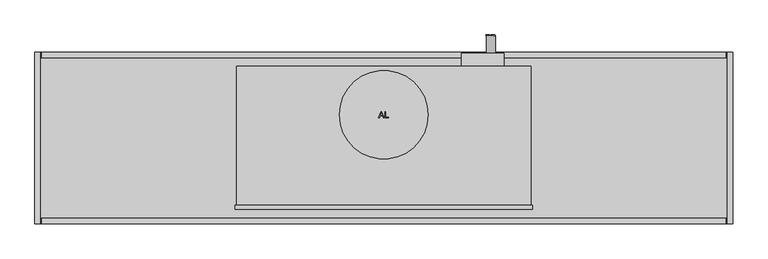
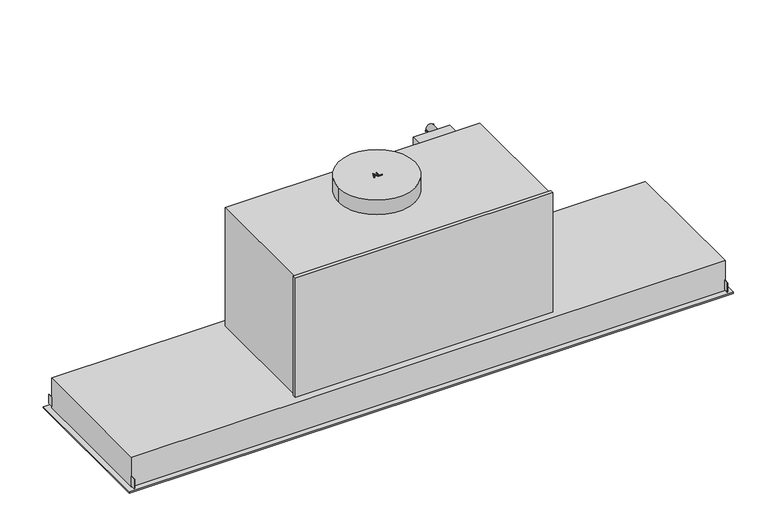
"""IFC4 building model written with IfcOpenShell, lengths in millimetres: proxy geometry, 10876800_USA_DA2628_EDST : 28262855_USA_10876800_DA2628_EDST."""

from ifc_helpers import new_model, si_unit, point, frame, frame_2d, origin, place, context, project, spatial, polyline, circle_curve, trimmed, segment, composite_curve, outline, extrude, faceted_brep, source, transform, mapped, element, save
from ifc_brep_helpers import plane_surface, revolved_surface, advanced_brep


def specialty_equipment_85a93b48(model_context):
    return source(origin(), model_context, "Body", "SolidModel", [
        extrude(outline(polyline([(-251.5, -266.0), (-251.5, -259.0), (251.5, -259.0), (251.5, -266.0), (-251.5, -266.0)])), frame((0.0, 0.0, 62.0), z_axis=(0.0, 0.0, 1.0), x_axis=(1.0, 0.0, 0.0)), (0.0, 0.0, 1.0), 247.0),
        extrude(outline(polyline([(-580.0, -10.0), (-580.0, 0.0), (-579.0, 0.0), (-579.0, -10.0), (-580.0, -10.0)])), frame((0.0, 0.0, 3.0), z_axis=(0.0, 0.0, 1.0), x_axis=(1.0, 0.0, 0.0)), (0.0, 0.0, 1.0), 19.0),
        extrude(outline(polyline([(-580.0, -290.0), (-580.0, -280.0), (-579.0, -280.0), (-579.0, -290.0), (-580.0, -290.0)])), frame((0.0, 0.0, 3.0), z_axis=(0.0, 0.0, 1.0), x_axis=(1.0, 0.0, 0.0)), (0.0, 0.0, 1.0), 19.0),
        extrude(outline(polyline([(580.0, -280.0), (580.0, -290.0), (579.0, -290.0), (579.0, -280.0), (580.0, -280.0)])), frame((0.0, 0.0, 3.0), z_axis=(0.0, 0.0, 1.0), x_axis=(1.0, 0.0, 0.0)), (0.0, 0.0, 1.0), 19.0),
        extrude(outline(polyline([(580.0, 0.0), (580.0, -10.0), (579.0, -10.0), (579.0, 0.0), (580.0, 0.0)])), frame((0.0, 0.0, 3.0), z_axis=(0.0, 0.0, 1.0), x_axis=(1.0, 0.0, 0.0)), (0.0, 0.0, 1.0), 19.0),
        extrude(outline(polyline([(295.0487014, 181.1488124), (293.7933175, 181.1488124), (293.7933175, 187.1103397), (290.8179635, 187.1103397), (290.8179635, 181.4736401), (289.549202, 181.4736401), (289.549202, 187.1103397), (286.2562302, 187.1103397), (286.2562302, 181.0), (285.0008068, 181.0), (285.0008068, 188.3751415), (295.0487014, 188.3751415), (295.0487014, 181.1488124)])), frame((0.0, 28.0, 0.0), z_axis=(0.0, 1.0, 0.0), x_axis=(0.0, 0.0, 1.0)), (0.0, 0.0, 1.0), 1.0),
        extrude(outline(polyline([(285.0010623, 179.1174475), (295.0447152, 179.1174475), (295.0447152, 177.8578836), (286.2586555, 177.8578836), (286.2586555, 172.835249), (285.0010623, 172.835249), (285.0010623, 179.1174475)])), frame((0.0, 28.0, 0.0), z_axis=(0.0, 1.0, 0.0), x_axis=(0.0, 0.0, 1.0)), (0.0, 0.0, 1.0), 1.0),
        extrude(outline(composite_curve([segment(trimmed(circle_curve(frame_2d((290.0, 181.0)), 7.5), [point((290.0, 188.5))], [point((290.0, 173.5))], False, "CARTESIAN"), True, "CONTINUOUS"), segment(trimmed(circle_curve(frame_2d((290.0, 181.0)), 7.5), [point((290.0, 173.5))], [point((290.0, 188.5))], False, "CARTESIAN"), True, "CONTINUOUS")], self_intersect=False)), frame((0.0, -2.0, 0.0), z_axis=(0.0, 1.0, 0.0), x_axis=(0.0, 0.0, 1.0)), (0.0, 0.0, 1.0), 30.0),
        extrude(outline(polyline([(-4.5437921, -100.9495981), (-3.4668148, -100.9495981), (0.5440871, -110.9953171), (-0.7800582, -110.9953171), (-1.9426964, -107.8611222), (-6.0755488, -107.8611222), (-7.2182499, -111.0006677), (-8.5685918, -111.0006677), (-4.5437921, -100.9495981)]), holes=[polyline([(-5.5965599, -106.5853483), (-2.3854954, -106.5853483), (-4.0062819, -102.2160952), (-5.5965599, -106.5853483)])]), frame((0.0, 0.0, 337.0), z_axis=(0.0, 0.0, 1.0), x_axis=(1.0, 0.0, 0.0)), (0.0, 0.0, 1.0), 1.0),
        extrude(outline(polyline([(1.8800307, -110.9978853), (1.8800307, -100.9363264), (3.1662053, -100.9363264), (3.1662053, -109.743845), (8.1662053, -109.743845), (8.1662053, -110.9978853), (1.8800307, -110.9978853)])), frame((0.0, 0.0, 337.0), z_axis=(0.0, 0.0, 1.0), x_axis=(1.0, 0.0, 0.0)), (0.0, 0.0, 1.0), 1.0),
        extrude(outline(composite_curve([segment(trimmed(circle_curve(frame_2d((0.0, -106.0)), 75.0), [point((75.0, -106.0))], [point((-75.0, -106.0))], False, "CARTESIAN"), True, "CONTINUOUS"), segment(trimmed(circle_curve(frame_2d((0.0, -106.0)), 75.0), [point((-75.0, -106.0))], [point((75.0, -106.0))], False, "CARTESIAN"), True, "CONTINUOUS")], self_intersect=False)), frame((0.0, 0.0, 307.0), z_axis=(0.0, 0.0, 1.0), x_axis=(1.0, 0.0, 0.0)), (0.0, 0.0, 1.0), 30.0),
        extrude(outline(polyline([(249.0, -24.0), (249.0, -259.0), (-249.0, -259.0), (-249.0, -24.0), (249.0, -24.0)])), frame((0.0, 0.0, 62.0), z_axis=(0.0, 0.0, 1.0), x_axis=(1.0, 0.0, 0.0)), (0.0, 0.0, 1.0), 245.0),
        extrude(outline(polyline([(-65.0, -45.0), (-65.0, -245.0), (-475.0, -245.0), (-475.0, -45.0), (-65.0, -45.0)])), frame((0.0, 0.0, -3.0), z_axis=(0.0, 0.0, 1.0), x_axis=(1.0, 0.0, 0.0)), (0.0, 0.0, 1.0), 6.0),
        extrude(outline(polyline([(475.0, -45.0), (475.0, -245.0), (65.0, -245.0), (65.0, -45.0), (475.0, -45.0)])), frame((0.0, 0.0, -3.0), z_axis=(0.0, 0.0, 1.0), x_axis=(1.0, 0.0, 0.0)), (0.0, 0.0, 1.0), 6.0),
        advanced_brep(
        [(50.0, -30.0, 43.0), (-50.0, -30.0, 43.0), (-50.0, -260.0, 43.0), (50.0, -260.0, 43.0), (50.0, -30.0, -3.0), (50.0, -260.0, -3.0), (-50.0, -260.0, -3.0), (-50.0, -30.0, -3.0), (29.0, -145.0, -3.0), (-29.0, -145.0, -3.0), (-29.0, -145.0, 0.0), (29.0, -145.0, 0.0)],
        [
            (0, 1),
            (1, 2),
            (2, 3),
            (3, 0),
            (4, 5),
            (5, 6),
            (6, 7),
            (7, 4),
            (8, 9, circle_curve(frame((0.0, -145.0, -3.0), z_axis=(0.0, 0.0, 1.0), x_axis=(-1.0, 0.0, 0.0)), 29.0)),
            (9, 8, circle_curve(frame((0.0, -145.0, -3.0), z_axis=(0.0, 0.0, 1.0), x_axis=(-1.0, 0.0, 0.0)), 29.0)),
            (0, 4),
            (7, 1),
            (3, 5),
            (10, 11, circle_curve(frame((0.0, -145.0, 0.0), z_axis=(0.0, 0.0, 1.0), x_axis=(-1.0, 0.0, 0.0)), 29.0)),
            (11, 8),
            (9, 10),
            (6, 2),
            (10, 11, circle_curve(frame((0.0, -145.0, 0.0), z_axis=(0.0, 0.0, -1.0), x_axis=(-1.0, 0.0, 0.0)), 29.0)),
        ],
        [
            plane_surface(frame((-50.0, -30.0, 43.0), z_axis=(0.0, 0.0, 1.0), x_axis=(-1.0, 0.0, 0.0))),
            plane_surface(frame((-50.0, -30.0, -3.0), z_axis=(0.0, 0.0, -1.0), x_axis=(1.0, 0.0, 0.0))),
            plane_surface(frame((50.0, -30.0, 43.0), z_axis=(0.0, 1.0, 0.0), x_axis=(0.0, 0.0, -1.0))),
            plane_surface(frame((50.0, -260.0, 43.0), z_axis=(1.0, 0.0, 0.0), x_axis=(0.0, 0.0, -1.0))),
            revolved_surface(polyline([(-29.0, -145.0, 0.0), (-29.0, -145.0, -3.0)]), (0.0, -145.0, -3.0), (0.0, 0.0, 1.0)),
            plane_surface(frame((-50.0, -30.0, 43.0), z_axis=(-1.0, 0.0, 0.0), x_axis=(0.0, 0.0, -1.0))),
            plane_surface(frame((-50.0, -260.0, 43.0), z_axis=(0.0, -1.0, 0.0), x_axis=(0.0, 0.0, -1.0))),
            plane_surface(frame((-29.0, -145.0, 0.0), z_axis=(0.0, 0.0, -1.0), x_axis=(0.0, -1.0, 0.0))),
        ],
        [
            (0, [[1, 2, 3, 4]]),
            (1, [[5, 6, 7, 8], [9, 10]]),
            (2, [[-1, 11, -8, 12]]),
            (3, [[-4, 13, -5, -11]]),
            (4, [[14, 15, -10, 16]]),
            (5, [[-2, -12, -7, 17]]),
            (6, [[-3, -17, -6, -13]]),
            (7, [[-14, 18]]),
            (4, [[-18, -16, -9, -15]]),
        ],
    ),
        extrude(outline(polyline([(590.0, 0.0), (590.0, -290.0), (-590.0, -290.0), (-590.0, 0.0), (590.0, 0.0)]), holes=[composite_curve([segment(trimmed(circle_curve(frame_2d((549.5, -145.0)), 29.0), [point((578.5, -145.0))], [point((520.5, -145.0))], True, "CARTESIAN"), True, "CONTINUOUS"), segment(trimmed(circle_curve(frame_2d((549.5, -145.0)), 29.0), [point((520.5, -145.0))], [point((578.5, -145.0))], True, "CARTESIAN"), True, "CONTINUOUS")], self_intersect=False), polyline([(490.0, -30.0), (-490.0, -30.0), (-490.0, -260.0), (490.0, -260.0), (490.0, -30.0)]), composite_curve([segment(trimmed(circle_curve(frame_2d((-549.5, -145.0)), 29.0), [point((-520.5, -145.0))], [point((-578.5, -145.0))], True, "CARTESIAN"), True, "CONTINUOUS"), segment(trimmed(circle_curve(frame_2d((-549.5, -145.0)), 29.0), [point((-578.5, -145.0))], [point((-520.5, -145.0))], True, "CARTESIAN"), True, "CONTINUOUS")], self_intersect=False)]), frame((0.0, 0.0, -3.0), z_axis=(0.0, 0.0, 1.0), x_axis=(1.0, 0.0, 0.0)), (0.0, 0.0, 1.0), 3.0),
        faceted_brep([(490.0, -260.0, 43.0), (490.0, -30.0, 43.0), (490.0, -30.0, 0.0), (490.0, -260.0, 0.0), (-580.0, -280.0, 62.0), (-580.0, -10.0, 62.0), (-580.0, -10.0, 0.0), (-580.0, -280.0, 0.0), (580.0, -280.0, 62.0), (580.0, -280.0, 0.0), (-490.0, -30.0, 43.0), (-490.0, -260.0, 43.0), (-490.0, -260.0, 0.0), (-490.0, -30.0, 0.0), (580.0, -10.0, 62.0), (580.0, -10.0, 0.0)], [[[0, 1, 2, 3]], [[4, 5, 6, 7]], [[8, 4, 7, 9]], [[10, 11, 12, 13]], [[11, 0, 3, 12]], [[14, 5, 4, 8]], [[15, 9, 7, 6], [2, 13, 12, 3]], [[5, 14, 15, 6]], [[14, 8, 9, 15]], [[1, 0, 11, 10]], [[1, 10, 13, 2]]]),
        extrude(outline(polyline([(131.0, -2.0), (203.0, -2.0), (203.0, -24.0), (131.0, -24.0), (131.0, -2.0)])), frame((0.0, 0.0, 280.0), z_axis=(0.0, 0.0, 1.0), x_axis=(1.0, 0.0, 0.0)), (0.0, 0.0, 1.0), 26.0),
        extrude(outline(polyline([(518.0, -67.0), (518.0, -92.5), (510.0, -92.5), (510.0, -67.0), (518.0, -67.0)])), frame((0.0, 0.0, -5.0), z_axis=(0.0, 0.0, 1.0), x_axis=(1.0, 0.0, 0.0)), (0.0, 0.0, 1.0), 2.0),
        extrude(outline(polyline([(510.0, -197.5), (518.0, -197.5), (518.0, -223.0), (510.0, -223.0), (510.0, -197.5)])), frame((0.0, 0.0, -5.0), z_axis=(0.0, 0.0, 1.0), x_axis=(1.0, 0.0, 0.0)), (0.0, 0.0, 1.0), 2.0),
        extrude(outline(polyline([(518.0, -93.0), (518.0, -118.5), (510.0, -118.5), (510.0, -93.0), (518.0, -93.0)])), frame((0.0, 0.0, -5.0), z_axis=(0.0, 0.0, 1.0), x_axis=(1.0, 0.0, 0.0)), (0.0, 0.0, 1.0), 2.0),
        extrude(outline(polyline([(510.0, -197.0), (510.0, -171.5), (518.0, -171.5), (518.0, -197.0), (510.0, -197.0)])), frame((0.0, 0.0, -5.0), z_axis=(0.0, 0.0, 1.0), x_axis=(1.0, 0.0, 0.0)), (0.0, 0.0, 1.0), 2.0),
        extrude(outline(polyline([(510.0, -171.0), (510.0, -119.0), (518.0, -119.0), (518.0, -171.0), (510.0, -171.0)])), frame((0.0, 0.0, -5.0), z_axis=(0.0, 0.0, 1.0), x_axis=(1.0, 0.0, 0.0)), (0.0, 0.0, 1.0), 2.0),
        extrude(outline(polyline([(481.0, -39.0), (481.0, -251.0), (286.5, -251.0), (286.5, -39.0), (481.0, -39.0)])), frame((0.0, 0.0, 36.0), z_axis=(0.0, 0.0, 1.0), x_axis=(1.0, 0.0, 0.0)), (0.0, 0.0, 1.0), 6.0),
        extrude(outline(polyline([(253.5, -39.0), (253.5, -251.0), (59.0, -251.0), (59.0, -39.0), (253.5, -39.0)])), frame((0.0, 0.0, 36.0), z_axis=(0.0, 0.0, 1.0), x_axis=(1.0, 0.0, 0.0)), (0.0, 0.0, 1.0), 6.0),
        extrude(outline(polyline([(-59.0, -39.0), (-59.0, -251.0), (-253.5, -251.0), (-253.5, -39.0), (-59.0, -39.0)])), frame((0.0, 0.0, 36.0), z_axis=(0.0, 0.0, 1.0), x_axis=(1.0, 0.0, 0.0)), (0.0, 0.0, 1.0), 6.0),
        extrude(outline(polyline([(-286.5, -39.0), (-286.5, -251.0), (-481.0, -251.0), (-481.0, -39.0), (-286.5, -39.0)])), frame((0.0, 0.0, 36.0), z_axis=(0.0, 0.0, 1.0), x_axis=(1.0, 0.0, 0.0)), (0.0, 0.0, 1.0), 6.0),
        extrude(outline(polyline([(490.0, -30.0), (490.0, -260.0), (277.5, -260.0), (277.5, -30.0), (490.0, -30.0)]), holes=[polyline([(481.0, -39.0), (286.5, -39.0), (286.5, -251.0), (481.0, -251.0), (481.0, -39.0)])]), frame((0.0, 0.0, 35.0), z_axis=(0.0, 0.0, 1.0), x_axis=(1.0, 0.0, 0.0)), (0.0, 0.0, 1.0), 8.0),
        extrude(outline(polyline([(262.5, -30.0), (262.5, -260.0), (50.0, -260.0), (50.0, -30.0), (262.5, -30.0)]), holes=[polyline([(253.5, -39.0), (59.0, -39.0), (59.0, -251.0), (253.5, -251.0), (253.5, -39.0)])]), frame((0.0, 0.0, 35.0), z_axis=(0.0, 0.0, 1.0), x_axis=(1.0, 0.0, 0.0)), (0.0, 0.0, 1.0), 8.0),
        extrude(outline(polyline([(-50.0, -30.0), (-50.0, -260.0), (-262.5, -260.0), (-262.5, -30.0), (-50.0, -30.0)]), holes=[polyline([(-59.0, -39.0), (-253.5, -39.0), (-253.5, -251.0), (-59.0, -251.0), (-59.0, -39.0)])]), frame((0.0, 0.0, 35.0), z_axis=(0.0, 0.0, 1.0), x_axis=(1.0, 0.0, 0.0)), (0.0, 0.0, 1.0), 8.0),
        extrude(outline(polyline([(-277.5, -30.0), (-277.5, -260.0), (-490.0, -260.0), (-490.0, -30.0), (-277.5, -30.0)]), holes=[polyline([(-286.5, -39.0), (-481.0, -39.0), (-481.0, -251.0), (-286.5, -251.0), (-286.5, -39.0)])]), frame((0.0, 0.0, 35.0), z_axis=(0.0, 0.0, 1.0), x_axis=(1.0, 0.0, 0.0)), (0.0, 0.0, 1.0), 8.0),
        extrude(outline(composite_curve([segment(trimmed(circle_curve(frame_2d((0.0, -145.0)), 27.5), [point((27.5, -145.0))], [point((-27.5, -145.0))], False, "CARTESIAN"), True, "CONTINUOUS"), segment(trimmed(circle_curve(frame_2d((0.0, -145.0)), 27.5), [point((-27.5, -145.0))], [point((27.5, -145.0))], False, "CARTESIAN"), True, "CONTINUOUS")], self_intersect=False)), frame((0.0, 0.0, -1.0), z_axis=(0.0, 0.0, 1.0), x_axis=(1.0, 0.0, 0.0)), (0.0, 0.0, 1.0), 1.0),
        extrude(outline(composite_curve([segment(trimmed(circle_curve(frame_2d((-549.5, -145.0)), 27.5), [point((-522.0, -145.0))], [point((-577.0, -145.0))], False, "CARTESIAN"), True, "CONTINUOUS"), segment(trimmed(circle_curve(frame_2d((-549.5, -145.0)), 27.5), [point((-577.0, -145.0))], [point((-522.0, -145.0))], False, "CARTESIAN"), True, "CONTINUOUS")], self_intersect=False)), frame((0.0, 0.0, -1.0), z_axis=(0.0, 0.0, 1.0), x_axis=(1.0, 0.0, 0.0)), (0.0, 0.0, 1.0), 1.0),
        extrude(outline(composite_curve([segment(trimmed(circle_curve(frame_2d((549.5, -145.0)), 27.5), [point((577.0, -145.0))], [point((522.0, -145.0))], False, "CARTESIAN"), True, "CONTINUOUS"), segment(trimmed(circle_curve(frame_2d((549.5, -145.0)), 27.5), [point((522.0, -145.0))], [point((577.0, -145.0))], False, "CARTESIAN"), True, "CONTINUOUS")], self_intersect=False)), frame((0.0, 0.0, -1.0), z_axis=(0.0, 0.0, 1.0), x_axis=(1.0, 0.0, 0.0)), (0.0, 0.0, 1.0), 1.0),
        extrude(outline(composite_curve([segment(trimmed(circle_curve(frame_2d((0.0, -145.0)), 27.5), [point((27.5, -145.0))], [point((-27.5, -145.0))], False, "CARTESIAN"), True, "CONTINUOUS"), segment(trimmed(circle_curve(frame_2d((0.0, -145.0)), 27.5), [point((-27.5, -145.0))], [point((27.5, -145.0))], False, "CARTESIAN"), True, "CONTINUOUS")], self_intersect=False)), frame((0.0, 0.0, -3.0), z_axis=(0.0, 0.0, 1.0), x_axis=(1.0, 0.0, 0.0)), (0.0, 0.0, 1.0), 2.0),
        extrude(outline(composite_curve([segment(trimmed(circle_curve(frame_2d((0.0, -145.0)), 28.5), [point((28.5, -145.0))], [point((-28.5, -145.0))], False, "CARTESIAN"), True, "CONTINUOUS"), segment(trimmed(circle_curve(frame_2d((0.0, -145.0)), 28.5), [point((-28.5, -145.0))], [point((28.5, -145.0))], False, "CARTESIAN"), True, "CONTINUOUS")], self_intersect=False), holes=[composite_curve([segment(trimmed(circle_curve(frame_2d((0.0, -145.0)), 27.5), [point((27.5, -145.0))], [point((-27.5, -145.0))], True, "CARTESIAN"), True, "CONTINUOUS"), segment(trimmed(circle_curve(frame_2d((0.0, -145.0)), 27.5), [point((-27.5, -145.0))], [point((27.5, -145.0))], True, "CARTESIAN"), True, "CONTINUOUS")], self_intersect=False)]), frame((0.0, 0.0, -3.0), z_axis=(0.0, 0.0, 1.0), x_axis=(1.0, 0.0, 0.0)), (0.0, 0.0, 1.0), 3.0),
        extrude(outline(composite_curve([segment(trimmed(circle_curve(frame_2d((-549.5, -145.0)), 27.5), [point((-522.0, -145.0))], [point((-577.0, -145.0))], False, "CARTESIAN"), True, "CONTINUOUS"), segment(trimmed(circle_curve(frame_2d((-549.5, -145.0)), 27.5), [point((-577.0, -145.0))], [point((-522.0, -145.0))], False, "CARTESIAN"), True, "CONTINUOUS")], self_intersect=False)), frame((0.0, 0.0, -3.0), z_axis=(0.0, 0.0, 1.0), x_axis=(1.0, 0.0, 0.0)), (0.0, 0.0, 1.0), 2.0),
        extrude(outline(composite_curve([segment(trimmed(circle_curve(frame_2d((549.5, -145.0)), 27.5), [point((577.0, -145.0))], [point((522.0, -145.0))], False, "CARTESIAN"), True, "CONTINUOUS"), segment(trimmed(circle_curve(frame_2d((549.5, -145.0)), 27.5), [point((522.0, -145.0))], [point((577.0, -145.0))], False, "CARTESIAN"), True, "CONTINUOUS")], self_intersect=False)), frame((0.0, 0.0, -3.0), z_axis=(0.0, 0.0, 1.0), x_axis=(1.0, 0.0, 0.0)), (0.0, 0.0, 1.0), 2.0),
        extrude(outline(composite_curve([segment(trimmed(circle_curve(frame_2d((-549.5, -145.0)), 28.5), [point((-521.0, -145.0))], [point((-578.0, -145.0))], False, "CARTESIAN"), True, "CONTINUOUS"), segment(trimmed(circle_curve(frame_2d((-549.5, -145.0)), 28.5), [point((-578.0, -145.0))], [point((-521.0, -145.0))], False, "CARTESIAN"), True, "CONTINUOUS")], self_intersect=False), holes=[composite_curve([segment(trimmed(circle_curve(frame_2d((-549.5, -145.0)), 27.5), [point((-522.0, -145.0))], [point((-577.0, -145.0))], True, "CARTESIAN"), True, "CONTINUOUS"), segment(trimmed(circle_curve(frame_2d((-549.5, -145.0)), 27.5), [point((-577.0, -145.0))], [point((-522.0, -145.0))], True, "CARTESIAN"), True, "CONTINUOUS")], self_intersect=False)]), frame((0.0, 0.0, -3.0), z_axis=(0.0, 0.0, 1.0), x_axis=(1.0, 0.0, 0.0)), (0.0, 0.0, 1.0), 3.0),
        extrude(outline(composite_curve([segment(trimmed(circle_curve(frame_2d((549.5, -145.0)), 28.5), [point((578.0, -145.0))], [point((521.0, -145.0))], False, "CARTESIAN"), True, "CONTINUOUS"), segment(trimmed(circle_curve(frame_2d((549.5, -145.0)), 28.5), [point((521.0, -145.0))], [point((578.0, -145.0))], False, "CARTESIAN"), True, "CONTINUOUS")], self_intersect=False), holes=[composite_curve([segment(trimmed(circle_curve(frame_2d((549.5, -145.0)), 27.5), [point((577.0, -145.0))], [point((522.0, -145.0))], True, "CARTESIAN"), True, "CONTINUOUS"), segment(trimmed(circle_curve(frame_2d((549.5, -145.0)), 27.5), [point((522.0, -145.0))], [point((577.0, -145.0))], True, "CARTESIAN"), True, "CONTINUOUS")], self_intersect=False)]), frame((0.0, 0.0, -3.0), z_axis=(0.0, 0.0, 1.0), x_axis=(1.0, 0.0, 0.0)), (0.0, 0.0, 1.0), 3.0),
    ])


if __name__ == "__main__":
    model = new_model("IFC4")
    model_context = context("Model", 3, world=origin())
    ifc_project = project(units=[si_unit("LENGTHUNIT", "METRE", prefix="MILLI")], contexts=[model_context])
    site = spatial("IfcSite", under=ifc_project)
    building = spatial("IfcBuilding", under=site)
    placement = place(None, origin())
    specialty_equipment_shape = specialty_equipment_85a93b48(model_context)
    element("IfcBuildingElementProxy", 1, Name="10876800_USA_DA2628_EDST : 28262855_USA_10876800_DA2628_EDST", ObjectType="10876800_USA_DA2628_EDST : 28262855_USA_10876800_DA2628_EDST", at=placement, inside=building, context=model_context, shape_type="MappedRepresentation", body=[
        mapped(specialty_equipment_shape, transform((0.0, 0.0, 0.0), x_axis=(1.0, 0.0, 0.0), y_axis=(0.0, 1.0, 0.0), z_axis=(0.0, 0.0, 1.0))),
    ])
    save(model, "model.ifc")
